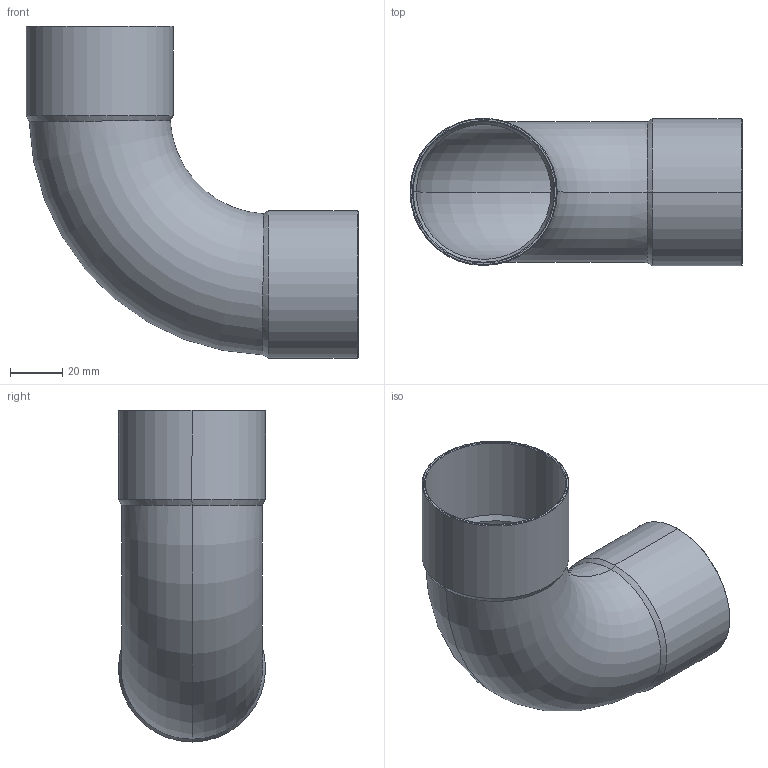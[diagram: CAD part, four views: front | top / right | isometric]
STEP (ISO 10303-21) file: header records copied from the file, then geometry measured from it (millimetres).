
FILE_DESCRIPTION((''),'2;1');
FILE_NAME('D:\5002\15002a54.stp','2005-10-04T11:50:12',('Kris'),(''),'Autodesk Inventor 8','Autodesk Inventor 8','');
FILE_SCHEMA(('AUTOMOTIVE_DESIGN { 1 0 10303 214 1 1 1 1 }'));
Length unit declared in the file: millimetre
Products named in the file (1): 15002a54
Bounding box: 127.2 x 56.4 x 127.2 mm (x, y, z)
Volume: 34611.5 mm3; surface area: 58031 mm2
Topology: 1 solids, 1 shells, 30 faces, 60 edges, 32 vertices
Faces by surface type: cone 12, bspline 9, torus 4, cylinder 4, plane 1
Entity records: 1031 total; most frequent: CARTESIAN_POINT 418, DIRECTION 124, ORIENTED_EDGE 120, EDGE_CURVE 60, AXIS2_PLACEMENT_3D 50, VERTEX_POINT 32, EDGE_LOOP 32, FACE_OUTER_BOUND 30
